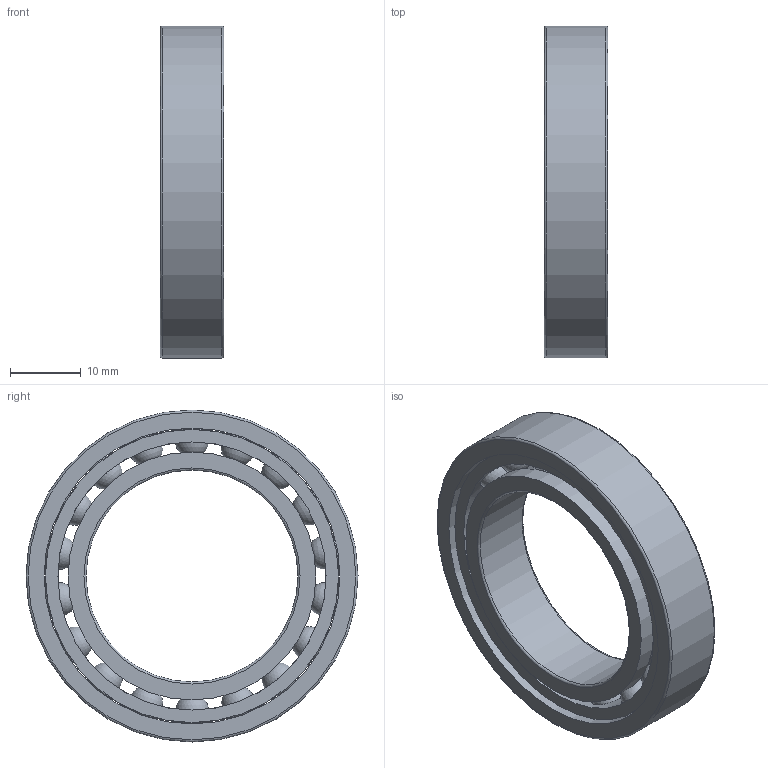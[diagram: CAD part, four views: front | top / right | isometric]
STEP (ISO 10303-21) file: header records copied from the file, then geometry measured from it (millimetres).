
FILE_DESCRIPTION(/* description */ (''),/* implementation_level */ '2;1');
FILE_NAME(/* name */ 'SM_61906_TA.step',/* time_stamp */ '2013-03-11T11:35:35+01:00',/* author */ ('Marian'),/* organization */ ('GMN'),/* preprocessor_version */ 'ST-DEVELOPER v11',/* originating_system */ 'SIEMENS UGS NX 6.0',/* authorisation */ '');
FILE_SCHEMA (('CONFIG_CONTROL_DESIGN'));
Length unit declared in the file: millimetre
Products named in the file (1): SM_61906_TA
Bounding box: 9 x 47 x 47 mm (x, y, z)
Volume: 6829.4 mm3; surface area: 8781.9 mm2
Topology: 21 solids, 21 shells, 56 faces, 146 edges, 94 vertices
Faces by surface type: cylinder 25, sphere 18, torus 6, plane 6, cone 1
Full cylindrical faces by diameter (mm): 4.962 x18, 30 x1, 35.1 x2, 37.962 x1, 41.5 x1, 41.9 x1, 47 x1
Entity records: 3270 total; most frequent: CARTESIAN_POINT 2239, DIRECTION 154, FACE_BOUND 130, EDGE_LOOP 112, ORIENTED_EDGE 112, AXIS2_PLACEMENT_3D 77, VERTEX_POINT 74, EDGE_CURVE 56
